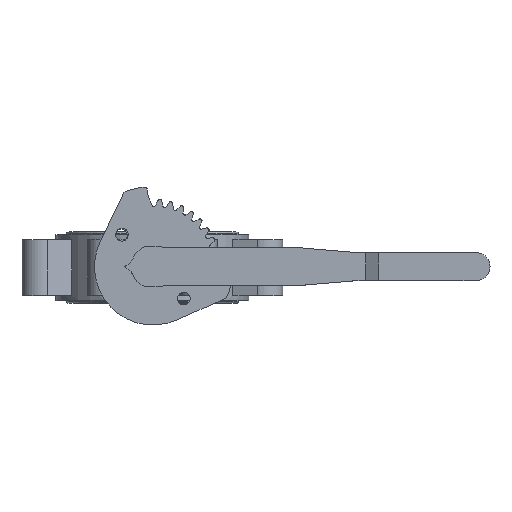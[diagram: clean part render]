
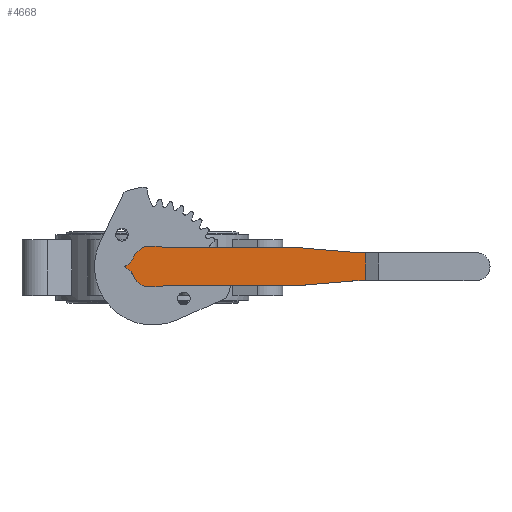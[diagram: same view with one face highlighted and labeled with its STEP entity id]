
A CAD part, top view. The second image highlights one B-rep face of the part: STEP entity #4668.
In plain terms, the highlighted planar face has unit normal (0, 0, 1) as drawn and (0, 0, -1) by its records, which use the part's own axes.
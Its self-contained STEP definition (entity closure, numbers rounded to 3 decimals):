
#44 = EDGE_CURVE ( 'NONE', #2318, #8039, #3364, .T. ) ;
#108 = CARTESIAN_POINT ( 'NONE',  ( 0., -16., 6. ) ) ;
#138 = LINE ( 'NONE', #7143, #7287 ) ;
#310 = DIRECTION ( 'NONE',  ( -1., 0., 0. ) ) ;
#551 = CARTESIAN_POINT ( 'NONE',  ( 0., 0., 6. ) ) ;
#600 = EDGE_CURVE ( 'NONE', #5692, #6834, #7704, .T. ) ;
#645 = CARTESIAN_POINT ( 'NONE',  ( 0., 11., 6. ) ) ;
#722 = AXIS2_PLACEMENT_3D ( 'NONE', #5734, #7111, #310 ) ;
#739 = CARTESIAN_POINT ( 'NONE',  ( -21.377, -0.864, 6. ) ) ;
#751 = DIRECTION ( 'NONE',  ( 0., -1., 0. ) ) ;
#756 = CARTESIAN_POINT ( 'NONE',  ( 2.057, -24.427, 6. ) ) ;
#825 = VERTEX_POINT ( 'NONE', #2354 ) ;
#965 = DIRECTION ( 'NONE',  ( -1., 0., 0. ) ) ;
#1048 = VERTEX_POINT ( 'NONE', #8062 ) ;
#1069 = CIRCLE ( 'NONE', #2798, 17. ) ;
#1242 = EDGE_LOOP ( 'NONE', ( #1993, #2324, #6464, #1859, #1446, #7322, #7709, #6976, #5443, #3743, #8895, #5858, #7595, #3521, #3380, #5137, #1335, #8282 ) ) ;
#1293 = VERTEX_POINT ( 'NONE', #8548 ) ;
#1302 = VERTEX_POINT ( 'NONE', #4424 ) ;
#1320 = CARTESIAN_POINT ( 'NONE',  ( 167.5, -47.763, 6. ) ) ;
#1331 = VECTOR ( 'NONE', #5460, 1000. ) ;
#1335 = ORIENTED_EDGE ( 'NONE', *, *, #2386, .T. ) ;
#1339 = VERTEX_POINT ( 'NONE', #8597 ) ;
#1379 = CIRCLE ( 'NONE', #1818, 8. ) ;
#1446 = ORIENTED_EDGE ( 'NONE', *, *, #5626, .T. ) ;
#1466 = DIRECTION ( 'NONE',  ( -1., 0., 0. ) ) ;
#1592 = CARTESIAN_POINT ( 'NONE',  ( 5.745, 16., 6. ) ) ;
#1595 = EDGE_CURVE ( 'NONE', #4653, #1302, #5616, .T. ) ;
#1598 = EDGE_CURVE ( 'NONE', #5557, #2648, #5509, .T. ) ;
#1631 = DIRECTION ( 'NONE',  ( -0.996, 0.084, 0. ) ) ;
#1678 = CARTESIAN_POINT ( 'NONE',  ( 167.5, 11., 6. ) ) ;
#1685 = CARTESIAN_POINT ( 'NONE',  ( -5.745, -16., 6. ) ) ;
#1818 = AXIS2_PLACEMENT_3D ( 'NONE', #6407, #4344, #6480 ) ;
#1859 = ORIENTED_EDGE ( 'NONE', *, *, #2066, .T. ) ;
#1940 = CARTESIAN_POINT ( 'NONE',  ( 0., 0., 6. ) ) ;
#1993 = ORIENTED_EDGE ( 'NONE', *, *, #4348, .T. ) ;
#1996 = DIRECTION ( 'NONE',  ( -1., 0., 0. ) ) ;
#2021 = EDGE_CURVE ( 'NONE', #4653, #825, #2675, .T. ) ;
#2052 = DIRECTION ( 'NONE',  ( -1., 0., 0. ) ) ;
#2066 = EDGE_CURVE ( 'NONE', #8185, #4920, #1069, .T. ) ;
#2318 = VERTEX_POINT ( 'NONE', #3661 ) ;
#2324 = ORIENTED_EDGE ( 'NONE', *, *, #5450, .T. ) ;
#2354 = CARTESIAN_POINT ( 'NONE',  ( 167.5, -11., 6. ) ) ;
#2386 = EDGE_CURVE ( 'NONE', #825, #2638, #138, .T. ) ;
#2389 = CARTESIAN_POINT ( 'NONE',  ( 0., 0., 6. ) ) ;
#2433 = LINE ( 'NONE', #7690, #5907 ) ;
#2594 = CARTESIAN_POINT ( 'NONE',  ( -3.337, -8.203, 6. ) ) ;
#2615 = LINE ( 'NONE', #8265, #1331 ) ;
#2637 = FACE_OUTER_BOUND ( 'NONE', #1242, .T. ) ;
#2638 = VERTEX_POINT ( 'NONE', #7817 ) ;
#2648 = VERTEX_POINT ( 'NONE', #7985 ) ;
#2673 = DIRECTION ( 'NONE',  ( 0., 0., -1. ) ) ;
#2675 = LINE ( 'NONE', #1320, #4848 ) ;
#2736 = DIRECTION ( 'NONE',  ( 0., 0., -1. ) ) ;
#2752 = CARTESIAN_POINT ( 'NONE',  ( -4.197, 9.001, 6. ) ) ;
#2798 = AXIS2_PLACEMENT_3D ( 'NONE', #6874, #3468, #2052 ) ;
#2931 = CARTESIAN_POINT ( 'NONE',  ( -24.931, 10.367, 6. ) ) ;
#3294 = CIRCLE ( 'NONE', #4993, 10. ) ;
#3303 = CARTESIAN_POINT ( 'NONE',  ( 0., 16., 6. ) ) ;
#3310 = EDGE_CURVE ( 'NONE', #8039, #6834, #5082, .T. ) ;
#3364 = LINE ( 'NONE', #2752, #3903 ) ;
#3380 = ORIENTED_EDGE ( 'NONE', *, *, #1595, .F. ) ;
#3385 = CIRCLE ( 'NONE', #8161, 17. ) ;
#3468 = DIRECTION ( 'NONE',  ( 0., 0., -1. ) ) ;
#3521 = ORIENTED_EDGE ( 'NONE', *, *, #5135, .F. ) ;
#3547 = CARTESIAN_POINT ( 'NONE',  ( -15.949, -5.886, 6. ) ) ;
#3654 = DIRECTION ( 'NONE',  ( 0., 0., -1. ) ) ;
#3661 = CARTESIAN_POINT ( 'NONE',  ( -20.704, 1.304, 6. ) ) ;
#3685 = AXIS2_PLACEMENT_3D ( 'NONE', #551, #5393, #1996 ) ;
#3743 = ORIENTED_EDGE ( 'NONE', *, *, #5405, .T. ) ;
#3796 = AXIS2_PLACEMENT_3D ( 'NONE', #2389, #7949, #5877 ) ;
#3903 = VECTOR ( 'NONE', #8939, 1000. ) ;
#3952 = VECTOR ( 'NONE', #1466, 1000. ) ;
#4233 = VERTEX_POINT ( 'NONE', #8204 ) ;
#4344 = DIRECTION ( 'NONE',  ( 0., 0., 1. ) ) ;
#4348 = EDGE_CURVE ( 'NONE', #7532, #4233, #2433, .T. ) ;
#4424 = CARTESIAN_POINT ( 'NONE',  ( 161.5, 11., 6. ) ) ;
#4426 = PLANE ( 'NONE',  #3796 ) ;
#4569 = EDGE_CURVE ( 'NONE', #1339, #2318, #3294, .T. ) ;
#4593 = EDGE_CURVE ( 'NONE', #1048, #8185, #7875, .T. ) ;
#4653 = VERTEX_POINT ( 'NONE', #1678 ) ;
#4668 = ADVANCED_FACE ( 'NONE', ( #2637 ), #4426, .T. ) ;
#4800 = DIRECTION ( 'NONE',  ( -1., 0., 0. ) ) ;
#4848 = VECTOR ( 'NONE', #751, 1000. ) ;
#4920 = VERTEX_POINT ( 'NONE', #3547 ) ;
#4971 = CARTESIAN_POINT ( 'NONE',  ( -21.423, 0.969, 6. ) ) ;
#4993 = AXIS2_PLACEMENT_3D ( 'NONE', #2931, #3654, #5730 ) ;
#5005 = CIRCLE ( 'NONE', #3685, 17. ) ;
#5082 = CIRCLE ( 'NONE', #722, 1. ) ;
#5120 = VECTOR ( 'NONE', #1631, 1000. ) ;
#5135 = EDGE_CURVE ( 'NONE', #1302, #5461, #6884, .T. ) ;
#5137 = ORIENTED_EDGE ( 'NONE', *, *, #2021, .T. ) ;
#5393 = DIRECTION ( 'NONE',  ( 0., 0., -1. ) ) ;
#5405 = EDGE_CURVE ( 'NONE', #1339, #2648, #5005, .T. ) ;
#5443 = ORIENTED_EDGE ( 'NONE', *, *, #4569, .F. ) ;
#5450 = EDGE_CURVE ( 'NONE', #4233, #1048, #3385, .T. ) ;
#5460 = DIRECTION ( 'NONE',  ( -1., 0., 0. ) ) ;
#5461 = VERTEX_POINT ( 'NONE', #6998 ) ;
#5489 = AXIS2_PLACEMENT_3D ( 'NONE', #1940, #2673, #8299 ) ;
#5495 = EDGE_CURVE ( 'NONE', #2638, #7532, #6647, .T. ) ;
#5509 = LINE ( 'NONE', #3303, #7696 ) ;
#5557 = VERTEX_POINT ( 'NONE', #1592 ) ;
#5616 = LINE ( 'NONE', #645, #6167 ) ;
#5626 = EDGE_CURVE ( 'NONE', #4920, #5692, #1379, .T. ) ;
#5647 = CARTESIAN_POINT ( 'NONE',  ( 114., -15., 6. ) ) ;
#5692 = VERTEX_POINT ( 'NONE', #6573 ) ;
#5730 = DIRECTION ( 'NONE',  ( -1., 0., 0. ) ) ;
#5734 = CARTESIAN_POINT ( 'NONE',  ( -21., 0.062, 6. ) ) ;
#5858 = ORIENTED_EDGE ( 'NONE', *, *, #6367, .T. ) ;
#5877 = DIRECTION ( 'NONE',  ( -1., 0., 0. ) ) ;
#5907 = VECTOR ( 'NONE', #6232, 1000. ) ;
#6157 = DIRECTION ( 'NONE',  ( -0.926, 0.377, 0. ) ) ;
#6167 = VECTOR ( 'NONE', #8877, 1000. ) ;
#6232 = DIRECTION ( 'NONE',  ( -1., 0., 0. ) ) ;
#6367 = EDGE_CURVE ( 'NONE', #5557, #1293, #8657, .T. ) ;
#6407 = CARTESIAN_POINT ( 'NONE',  ( -23.454, -8.656, 6. ) ) ;
#6464 = ORIENTED_EDGE ( 'NONE', *, *, #4593, .T. ) ;
#6480 = DIRECTION ( 'NONE',  ( -1., 0., 0. ) ) ;
#6573 = CARTESIAN_POINT ( 'NONE',  ( -20.439, -1.245, 6. ) ) ;
#6647 = LINE ( 'NONE', #756, #8281 ) ;
#6803 = DIRECTION ( 'NONE',  ( -1., 0., 0. ) ) ;
#6834 = VERTEX_POINT ( 'NONE', #739 ) ;
#6874 = CARTESIAN_POINT ( 'NONE',  ( 0., 0., 6. ) ) ;
#6884 = LINE ( 'NONE', #7269, #5120 ) ;
#6940 = CARTESIAN_POINT ( 'NONE',  ( 0., 0., 6. ) ) ;
#6976 = ORIENTED_EDGE ( 'NONE', *, *, #44, .F. ) ;
#6998 = CARTESIAN_POINT ( 'NONE',  ( 114., 15., 6. ) ) ;
#7026 = DIRECTION ( 'NONE',  ( -0.996, -0.084, 0. ) ) ;
#7111 = DIRECTION ( 'NONE',  ( 0., 0., 1. ) ) ;
#7143 = CARTESIAN_POINT ( 'NONE',  ( 0., -11., 6. ) ) ;
#7269 = CARTESIAN_POINT ( 'NONE',  ( 2.057, 24.427, 6. ) ) ;
#7287 = VECTOR ( 'NONE', #965, 1000. ) ;
#7322 = ORIENTED_EDGE ( 'NONE', *, *, #600, .T. ) ;
#7532 = VERTEX_POINT ( 'NONE', #5647 ) ;
#7595 = ORIENTED_EDGE ( 'NONE', *, *, #8443, .F. ) ;
#7690 = CARTESIAN_POINT ( 'NONE',  ( 0., -15., 6. ) ) ;
#7696 = VECTOR ( 'NONE', #6803, 1000. ) ;
#7704 = LINE ( 'NONE', #2594, #8359 ) ;
#7709 = ORIENTED_EDGE ( 'NONE', *, *, #3310, .F. ) ;
#7817 = CARTESIAN_POINT ( 'NONE',  ( 161.5, -11., 6. ) ) ;
#7875 = LINE ( 'NONE', #108, #3952 ) ;
#7949 = DIRECTION ( 'NONE',  ( 0., 0., -1. ) ) ;
#7985 = CARTESIAN_POINT ( 'NONE',  ( -5.745, 16., 6. ) ) ;
#8039 = VERTEX_POINT ( 'NONE', #4971 ) ;
#8062 = CARTESIAN_POINT ( 'NONE',  ( 5.745, -16., 6. ) ) ;
#8161 = AXIS2_PLACEMENT_3D ( 'NONE', #6940, #2736, #4800 ) ;
#8185 = VERTEX_POINT ( 'NONE', #1685 ) ;
#8204 = CARTESIAN_POINT ( 'NONE',  ( 8., -15., 6. ) ) ;
#8265 = CARTESIAN_POINT ( 'NONE',  ( 0., 15., 6. ) ) ;
#8281 = VECTOR ( 'NONE', #7026, 1000. ) ;
#8282 = ORIENTED_EDGE ( 'NONE', *, *, #5495, .T. ) ;
#8299 = DIRECTION ( 'NONE',  ( -1., 0., 0. ) ) ;
#8359 = VECTOR ( 'NONE', #6157, 1000. ) ;
#8443 = EDGE_CURVE ( 'NONE', #5461, #1293, #2615, .T. ) ;
#8548 = CARTESIAN_POINT ( 'NONE',  ( 8., 15., 6. ) ) ;
#8597 = CARTESIAN_POINT ( 'NONE',  ( -15.697, 6.527, 6. ) ) ;
#8657 = CIRCLE ( 'NONE', #5489, 17. ) ;
#8877 = DIRECTION ( 'NONE',  ( -1., 0., 0. ) ) ;
#8895 = ORIENTED_EDGE ( 'NONE', *, *, #1598, .F. ) ;
#8939 = DIRECTION ( 'NONE',  ( -0.906, -0.423, 0. ) ) ;
